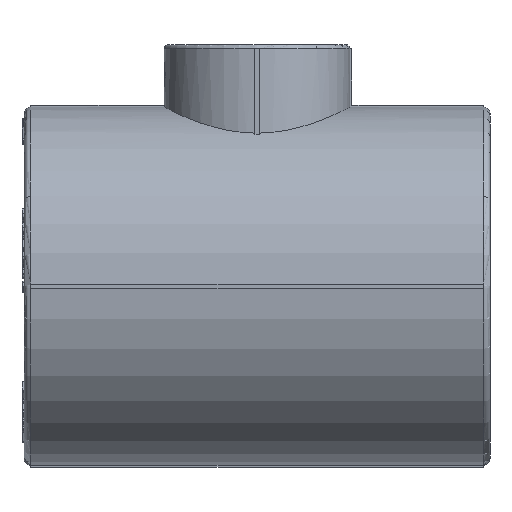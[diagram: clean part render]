
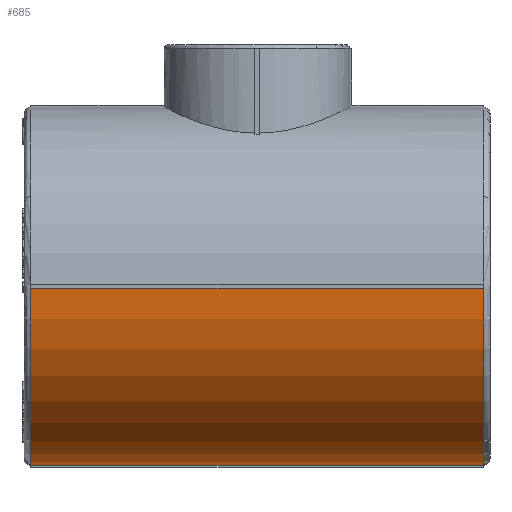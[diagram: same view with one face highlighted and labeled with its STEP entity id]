
A CAD part, left-side view. The second image highlights one B-rep face of the part: STEP entity #685.
In plain terms, the highlighted cylindrical face has radius 41.5 mm (diameter 83 mm), a partial arc.
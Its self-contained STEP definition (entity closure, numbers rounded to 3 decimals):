
#685=ADVANCED_FACE('',(#5305),#5307,.T.);
#5305=FACE_BOUND('',#5306,.T.);
#5306=EDGE_LOOP('',(#13432,#13433,#13434,#13435));
#5307=CYLINDRICAL_SURFACE('',#5308,41.5);
#5308=AXIS2_PLACEMENT_3D('',#5309,#5310,#5311);
#5309=CARTESIAN_POINT('',(0.,-54.,0.));
#5310=DIRECTION('',(0.,1.,0.));
#5311=DIRECTION('',(-1.,0.,0.));
#13432=ORIENTED_EDGE('',*,*,#18945,.F.);
#13433=ORIENTED_EDGE('',*,*,#18946,.T.);
#13434=ORIENTED_EDGE('',*,*,#18947,.F.);
#13435=ORIENTED_EDGE('',*,*,#18908,.F.);
#18908=EDGE_CURVE('',#23298,#23300,#23301,.T.);
#18945=EDGE_CURVE('',#23367,#23298,#23368,.T.);
#18946=EDGE_CURVE('',#23367,#23369,#23370,.T.);
#18947=EDGE_CURVE('',#23300,#23369,#23371,.F.);
#23298=VERTEX_POINT('',#32193);
#23300=VERTEX_POINT('',#32198);
#23301=CIRCLE('',#32199,41.5);
#23367=VERTEX_POINT('',#32571);
#23368=LINE('',#32572,#32573);
#23369=VERTEX_POINT('',#32575);
#23370=CIRCLE('',#32576,41.5);
#23371=LINE('',#32580,#32581);
#32193=CARTESIAN_POINT('',(-0.5,52.5,-41.497));
#32198=CARTESIAN_POINT('',(-41.497,52.5,-0.5));
#32199=AXIS2_PLACEMENT_3D('',#32200,#32201,#32202);
#32200=CARTESIAN_POINT('',(0.,52.5,0.));
#32201=DIRECTION('',(0.,1.,0.));
#32202=DIRECTION('',(-0.012,0.,-1.));
#32571=CARTESIAN_POINT('',(-0.5,-52.5,-41.497));
#32572=CARTESIAN_POINT('',(-0.5,-52.5,-41.497));
#32573=VECTOR('',#32574,1.);
#32574=DIRECTION('',(0.,1.,0.));
#32575=CARTESIAN_POINT('',(-41.497,-52.5,-0.5));
#32576=AXIS2_PLACEMENT_3D('',#32577,#32578,#32579);
#32577=CARTESIAN_POINT('',(0.,-52.5,0.));
#32578=DIRECTION('',(0.,1.,0.));
#32579=DIRECTION('',(-0.012,0.,-1.));
#32580=CARTESIAN_POINT('',(-41.497,-52.5,-0.5));
#32581=VECTOR('',#32582,1.);
#32582=DIRECTION('',(0.,1.,0.));
